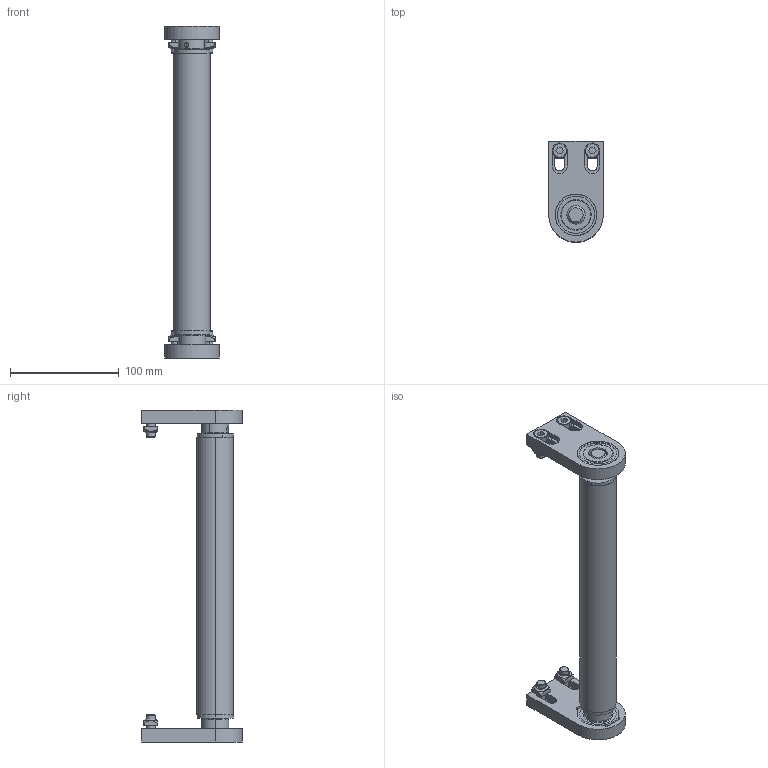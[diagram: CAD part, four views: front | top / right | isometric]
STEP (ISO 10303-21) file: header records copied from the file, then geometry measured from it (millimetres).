
FILE_DESCRIPTION (( 'STEP AP203' ), '1' );
FILE_NAME ('084.050.KSS.250.STEP', '2019-07-30T06:50:06', ( '' ), ( '' ), 'SwSTEP 2.0', 'SolidWorks 2018', '' );
FILE_SCHEMA (( 'CONFIG_CONTROL_DESIGN' ));
Length unit declared in the file: millimetre
Products named in the file (8): 084.802.029-250; 084.802.013-2; 084.301.000 VITI ALUSIC_084.301.003; 084.302.000 DADI ALUSIC 13x13-1_084.302.004; 084.050.KSS.250; 084.802.028; 084.802.014; 084.802.017_084.802.017
Assembly tree (17 placements, depth 2):
  084.050.KSS.250
    084.802.029-250
    084.301.000 VITI ALUSIC_084.301.003  x4
    084.302.000 DADI ALUSIC 13x13-1_084.302.004  x4
    084.802.017_084.802.017  x2
    084.802.028  x2
    084.802.014  x2
    084.802.013-2  x2
Bounding box: 50 x 92.5 x 305 mm (x, y, z)
Volume: 212419.9 mm3; surface area: 124474.9 mm2
Topology: 19 solids, 21 shells, 384 faces, 910 edges, 582 vertices
Faces by surface type: plane 142, cylinder 134, torus 52, cone 32, bspline 16, sphere 8
Entity records: 5980 total; most frequent: CARTESIAN_POINT 1263, DIRECTION 820, ORIENTED_EDGE 700, EDGE_CURVE 350, AXIS2_PLACEMENT_3D 339, VERTEX_POINT 224, EDGE_LOOP 182, CIRCLE 170
